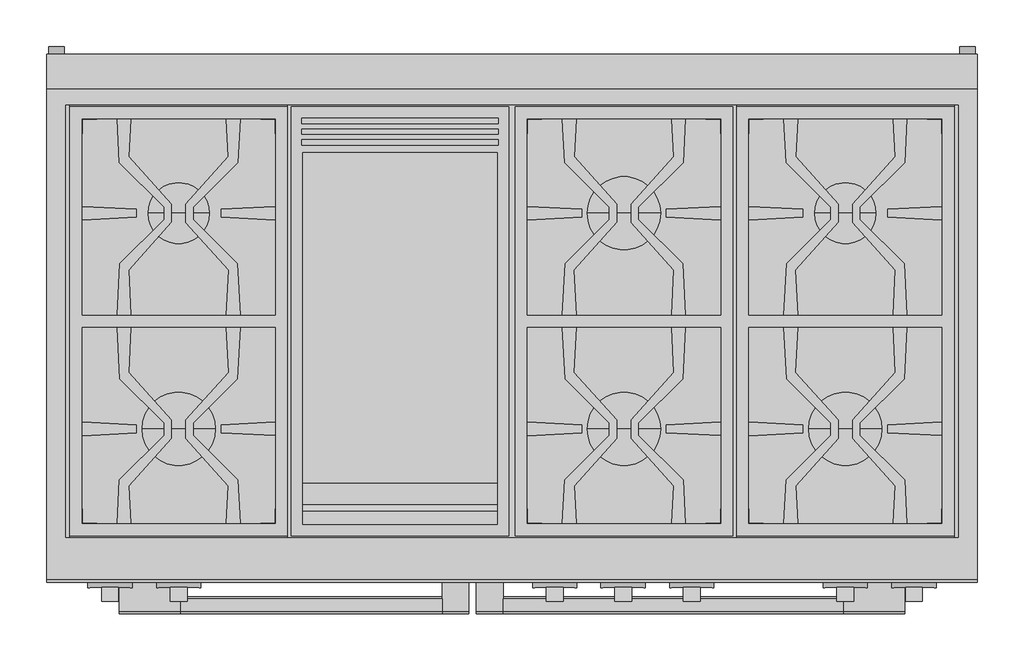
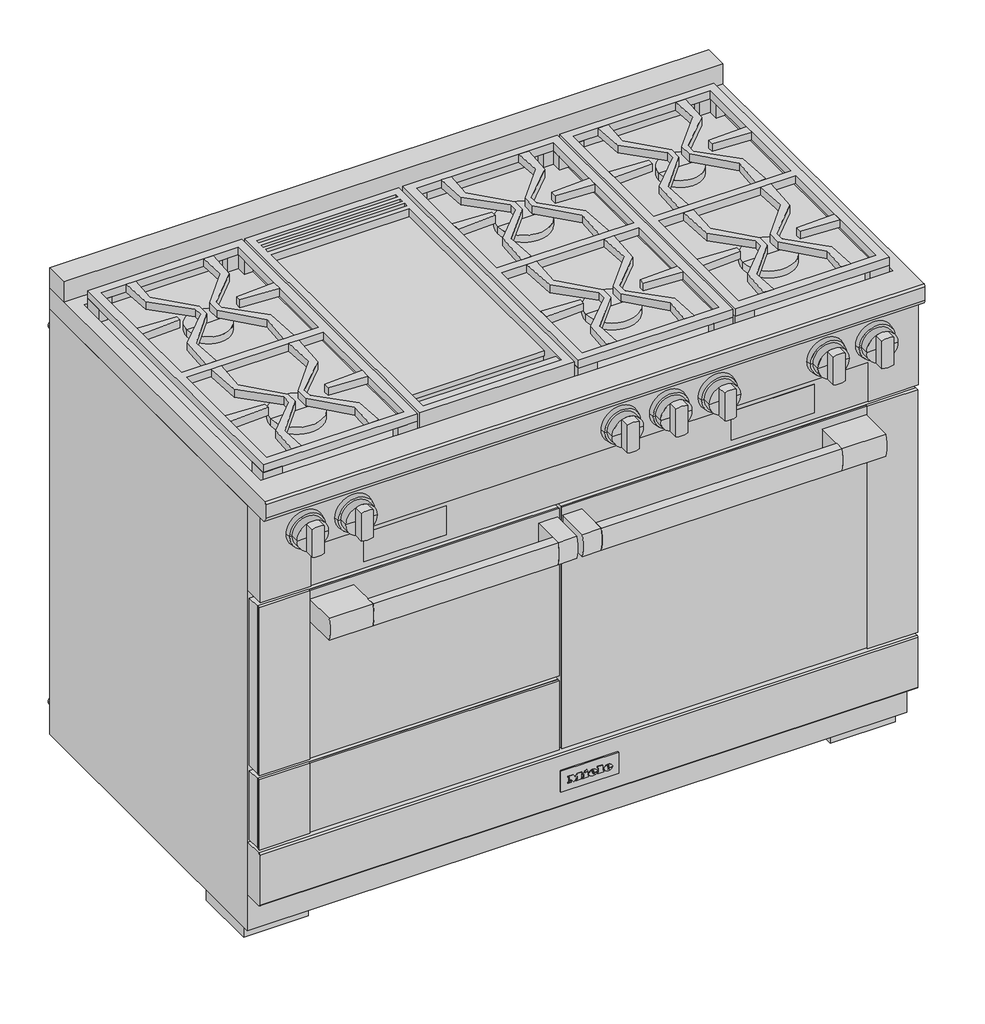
# Not in any storey: 1 proxy.
"""IFC4 building model written with IfcOpenShell, lengths in millimetres."""

from ifc_helpers import new_model, si_unit, origin, place, context, project, spatial, transform, mapped, element, save
from components import specialty_equipment_7697040e, specialty_equipment_941c495b

model = new_model("IFC4")

# Units and contexts
model_context = context("Model", 3, world=origin())
ifc_project = project(units=[si_unit("LENGTHUNIT", "METRE", prefix="MILLI")], contexts=[model_context])

# Site, building
site = spatial("IfcSite", under=ifc_project)
building = spatial("IfcBuilding", under=site)

# Proxy
placement = place(None, origin())
specialty_equipment_shape = specialty_equipment_7697040e(model_context)
specialty_equipment_2_shape = specialty_equipment_941c495b(model_context)
element("IfcBuildingElementProxy", 1, Name="11791750_USA_HR1956-3LP_EDST-CLS : 25195682_USA_11791750_HR1956-3LP_EDST-CLS", ObjectType="11791750_USA_HR1956-3LP_EDST-CLS : 25195682_USA_11791750_HR1956-3LP_EDST-CLS", at=placement, inside=building, context=model_context, shape_type="MappedRepresentation", body=[
    mapped(specialty_equipment_shape, transform((0.0, 0.0, 0.0), x_axis=(1.0, 0.0, 0.0), y_axis=(0.0, 1.0, 0.0), z_axis=(0.0, 0.0, 1.0))),
    mapped(specialty_equipment_2_shape, transform((0.0, 0.0, 0.0), x_axis=(1.0, 0.0, 0.0), y_axis=(0.0, 1.0, 0.0), z_axis=(0.0, 0.0, 1.0))),
])

save(model, "model.ifc")
